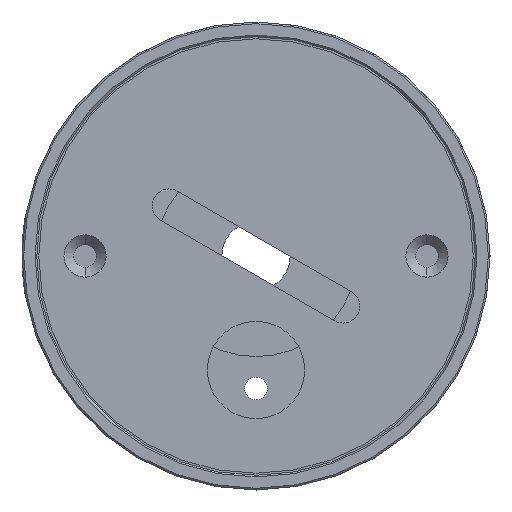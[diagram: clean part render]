
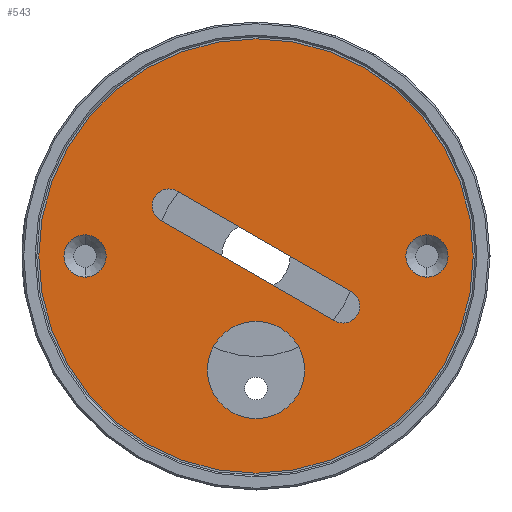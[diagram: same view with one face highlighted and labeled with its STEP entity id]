
A CAD part, front view. The second image highlights one B-rep face of the part: STEP entity #543.
In plain terms, the highlighted planar face has unit normal (0, -1, 0).
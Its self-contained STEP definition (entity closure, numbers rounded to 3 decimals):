
#51 = DIRECTION ( 'NONE',  ( 0., 1., 0. ) ) ;
#63 = CIRCLE ( 'NONE', #634, 2.5 ) ;
#73 = CARTESIAN_POINT ( 'NONE',  ( 25.5, 0., -3.15 ) ) ;
#107 = CIRCLE ( 'NONE', #4030, 7.25 ) ;
#110 = AXIS2_PLACEMENT_3D ( 'NONE', #2661, #3682, #3620 ) ;
#116 = AXIS2_PLACEMENT_3D ( 'NONE', #460, #1111, #3094 ) ;
#120 = CARTESIAN_POINT ( 'NONE',  ( 0., 0., -24.25 ) ) ;
#134 = EDGE_CURVE ( 'NONE', #3843, #694, #979, .T. ) ;
#183 = AXIS2_PLACEMENT_3D ( 'NONE', #4223, #811, #3846 ) ;
#190 = AXIS2_PLACEMENT_3D ( 'NONE', #449, #2221, #1149 ) ;
#206 = PLANE ( 'NONE',  #902 ) ;
#208 = VECTOR ( 'NONE', #2802, 1000. ) ;
#222 = EDGE_CURVE ( 'NONE', #1019, #503, #3253, .T. ) ;
#274 = DIRECTION ( 'NONE',  ( 0., -1., 0. ) ) ;
#290 = VERTEX_POINT ( 'NONE', #73 ) ;
#320 = ORIENTED_EDGE ( 'NONE', *, *, #2594, .F. ) ;
#379 = EDGE_CURVE ( 'NONE', #503, #1019, #4318, .T. ) ;
#449 = CARTESIAN_POINT ( 'NONE',  ( -25.5, 0., 0. ) ) ;
#460 = CARTESIAN_POINT ( 'NONE',  ( 0., 0., -17. ) ) ;
#475 = DIRECTION ( 'NONE',  ( 0., 0., -1. ) ) ;
#503 = VERTEX_POINT ( 'NONE', #4110 ) ;
#543 = ADVANCED_FACE ( 'NONE', ( #3865, #1505, #2859, #2598, #602 ), #206, .T. ) ;
#548 = AXIS2_PLACEMENT_3D ( 'NONE', #2478, #3831, #3497 ) ;
#589 = EDGE_CURVE ( 'NONE', #290, #3714, #2040, .T. ) ;
#597 = ORIENTED_EDGE ( 'NONE', *, *, #379, .T. ) ;
#602 = FACE_OUTER_BOUND ( 'NONE', #4303, .T. ) ;
#634 = AXIS2_PLACEMENT_3D ( 'NONE', #1311, #2651, #2696 ) ;
#645 = DIRECTION ( 'NONE',  ( 0., 0., -1. ) ) ;
#648 = CARTESIAN_POINT ( 'NONE',  ( 0., 0., 32.4 ) ) ;
#694 = VERTEX_POINT ( 'NONE', #2991 ) ;
#711 = DIRECTION ( 'NONE',  ( 0., -1., 0. ) ) ;
#811 = DIRECTION ( 'NONE',  ( 0., -1., 0. ) ) ;
#889 = CARTESIAN_POINT ( 'NONE',  ( -12.99, 0., 10. ) ) ;
#902 = AXIS2_PLACEMENT_3D ( 'NONE', #2927, #274, #921 ) ;
#921 = DIRECTION ( 'NONE',  ( 0., 0., -1. ) ) ;
#923 = AXIS2_PLACEMENT_3D ( 'NONE', #2518, #2153, #1443 ) ;
#979 = CIRCLE ( 'NONE', #190, 3.15 ) ;
#997 = ORIENTED_EDGE ( 'NONE', *, *, #222, .T. ) ;
#1008 = DIRECTION ( 'NONE',  ( 0., 0., 1. ) ) ;
#1019 = VERTEX_POINT ( 'NONE', #648 ) ;
#1048 = EDGE_LOOP ( 'NONE', ( #2655, #4155, #1535, #1631, #3820 ) ) ;
#1056 = VERTEX_POINT ( 'NONE', #3809 ) ;
#1111 = DIRECTION ( 'NONE',  ( 0., 1., 0. ) ) ;
#1116 = CIRCLE ( 'NONE', #116, 7.25 ) ;
#1149 = DIRECTION ( 'NONE',  ( 0., 0., -1. ) ) ;
#1186 = AXIS2_PLACEMENT_3D ( 'NONE', #1461, #4182, #475 ) ;
#1307 = VERTEX_POINT ( 'NONE', #3994 ) ;
#1311 = CARTESIAN_POINT ( 'NONE',  ( -12.99, 0., 7.5 ) ) ;
#1316 = CARTESIAN_POINT ( 'NONE',  ( 0., 0., -17. ) ) ;
#1349 = CIRCLE ( 'NONE', #923, 3.15 ) ;
#1422 = CARTESIAN_POINT ( 'NONE',  ( -11.74, 0., 9.665 ) ) ;
#1443 = DIRECTION ( 'NONE',  ( 0., 0., -1. ) ) ;
#1461 = CARTESIAN_POINT ( 'NONE',  ( 0., 0., 0. ) ) ;
#1471 = EDGE_CURVE ( 'NONE', #1307, #3373, #107, .T. ) ;
#1497 = CIRCLE ( 'NONE', #2129, 2.5 ) ;
#1505 = FACE_BOUND ( 'NONE', #1734, .T. ) ;
#1535 = ORIENTED_EDGE ( 'NONE', *, *, #2726, .T. ) ;
#1631 = ORIENTED_EDGE ( 'NONE', *, *, #4330, .T. ) ;
#1686 = ORIENTED_EDGE ( 'NONE', *, *, #589, .F. ) ;
#1709 = VECTOR ( 'NONE', #1843, 1000. ) ;
#1734 = EDGE_LOOP ( 'NONE', ( #3292, #4242 ) ) ;
#1735 = CARTESIAN_POINT ( 'NONE',  ( -14.24, 0., 5.335 ) ) ;
#1843 = DIRECTION ( 'NONE',  ( -0.866, 0., 0.5 ) ) ;
#2024 = EDGE_CURVE ( 'NONE', #2755, #2797, #63, .T. ) ;
#2040 = CIRCLE ( 'NONE', #110, 3.15 ) ;
#2071 = CARTESIAN_POINT ( 'NONE',  ( -25.5, 0., -3.15 ) ) ;
#2129 = AXIS2_PLACEMENT_3D ( 'NONE', #2448, #51, #3799 ) ;
#2153 = DIRECTION ( 'NONE',  ( 0., -1., 0. ) ) ;
#2221 = DIRECTION ( 'NONE',  ( 0., -1., 0. ) ) ;
#2294 = CARTESIAN_POINT ( 'NONE',  ( -11.74, 0., 9.665 ) ) ;
#2407 = CIRCLE ( 'NONE', #548, 2.5 ) ;
#2448 = CARTESIAN_POINT ( 'NONE',  ( -12.99, 0., 7.5 ) ) ;
#2474 = CIRCLE ( 'NONE', #4180, 3.15 ) ;
#2478 = CARTESIAN_POINT ( 'NONE',  ( 12.99, 0., -7.5 ) ) ;
#2518 = CARTESIAN_POINT ( 'NONE',  ( 25.5, 0., 0. ) ) ;
#2594 = EDGE_CURVE ( 'NONE', #3714, #290, #1349, .T. ) ;
#2598 = FACE_BOUND ( 'NONE', #1048, .T. ) ;
#2651 = DIRECTION ( 'NONE',  ( 0., 1., 0. ) ) ;
#2655 = ORIENTED_EDGE ( 'NONE', *, *, #3348, .T. ) ;
#2661 = CARTESIAN_POINT ( 'NONE',  ( 25.5, 0., 0. ) ) ;
#2674 = DIRECTION ( 'NONE',  ( 0., 1., 0. ) ) ;
#2696 = DIRECTION ( 'NONE',  ( 0., 0., 1. ) ) ;
#2726 = EDGE_CURVE ( 'NONE', #2797, #4142, #3208, .T. ) ;
#2755 = VERTEX_POINT ( 'NONE', #889 ) ;
#2797 = VERTEX_POINT ( 'NONE', #2294 ) ;
#2802 = DIRECTION ( 'NONE',  ( 0.866, 0., -0.5 ) ) ;
#2855 = CARTESIAN_POINT ( 'NONE',  ( 25.5, 0., 3.15 ) ) ;
#2859 = FACE_BOUND ( 'NONE', #3795, .T. ) ;
#2927 = CARTESIAN_POINT ( 'NONE',  ( 0., 0., 0. ) ) ;
#2991 = CARTESIAN_POINT ( 'NONE',  ( -25.5, 0., 3.15 ) ) ;
#3094 = DIRECTION ( 'NONE',  ( 0., 0., 1. ) ) ;
#3134 = CARTESIAN_POINT ( 'NONE',  ( -14.24, 0., 5.335 ) ) ;
#3208 = LINE ( 'NONE', #1422, #208 ) ;
#3253 = CIRCLE ( 'NONE', #183, 32.4 ) ;
#3271 = EDGE_CURVE ( 'NONE', #1056, #4281, #3438, .T. ) ;
#3292 = ORIENTED_EDGE ( 'NONE', *, *, #134, .F. ) ;
#3318 = EDGE_LOOP ( 'NONE', ( #1686, #320 ) ) ;
#3327 = ORIENTED_EDGE ( 'NONE', *, *, #4118, .T. ) ;
#3348 = EDGE_CURVE ( 'NONE', #4281, #2755, #1497, .T. ) ;
#3373 = VERTEX_POINT ( 'NONE', #120 ) ;
#3438 = LINE ( 'NONE', #3134, #1709 ) ;
#3497 = DIRECTION ( 'NONE',  ( 0., 0., 1. ) ) ;
#3620 = DIRECTION ( 'NONE',  ( 0., 0., -1. ) ) ;
#3682 = DIRECTION ( 'NONE',  ( 0., -1., 0. ) ) ;
#3714 = VERTEX_POINT ( 'NONE', #2855 ) ;
#3795 = EDGE_LOOP ( 'NONE', ( #4025, #3327 ) ) ;
#3799 = DIRECTION ( 'NONE',  ( 0., 0., 1. ) ) ;
#3809 = CARTESIAN_POINT ( 'NONE',  ( 11.74, 0., -9.665 ) ) ;
#3820 = ORIENTED_EDGE ( 'NONE', *, *, #3271, .T. ) ;
#3831 = DIRECTION ( 'NONE',  ( 0., 1., 0. ) ) ;
#3843 = VERTEX_POINT ( 'NONE', #2071 ) ;
#3846 = DIRECTION ( 'NONE',  ( 0., 0., -1. ) ) ;
#3865 = FACE_BOUND ( 'NONE', #3318, .T. ) ;
#3988 = EDGE_CURVE ( 'NONE', #694, #3843, #2474, .T. ) ;
#3994 = CARTESIAN_POINT ( 'NONE',  ( 0., 0., -9.75 ) ) ;
#4025 = ORIENTED_EDGE ( 'NONE', *, *, #1471, .T. ) ;
#4030 = AXIS2_PLACEMENT_3D ( 'NONE', #1316, #2674, #1008 ) ;
#4103 = CARTESIAN_POINT ( 'NONE',  ( -25.5, 0., 0. ) ) ;
#4110 = CARTESIAN_POINT ( 'NONE',  ( 0., 0., -32.4 ) ) ;
#4118 = EDGE_CURVE ( 'NONE', #3373, #1307, #1116, .T. ) ;
#4142 = VERTEX_POINT ( 'NONE', #4166 ) ;
#4155 = ORIENTED_EDGE ( 'NONE', *, *, #2024, .T. ) ;
#4166 = CARTESIAN_POINT ( 'NONE',  ( 14.24, 0., -5.335 ) ) ;
#4180 = AXIS2_PLACEMENT_3D ( 'NONE', #4103, #711, #645 ) ;
#4182 = DIRECTION ( 'NONE',  ( 0., -1., 0. ) ) ;
#4223 = CARTESIAN_POINT ( 'NONE',  ( 0., 0., 0. ) ) ;
#4242 = ORIENTED_EDGE ( 'NONE', *, *, #3988, .F. ) ;
#4281 = VERTEX_POINT ( 'NONE', #1735 ) ;
#4303 = EDGE_LOOP ( 'NONE', ( #597, #997 ) ) ;
#4318 = CIRCLE ( 'NONE', #1186, 32.4 ) ;
#4330 = EDGE_CURVE ( 'NONE', #4142, #1056, #2407, .T. ) ;
